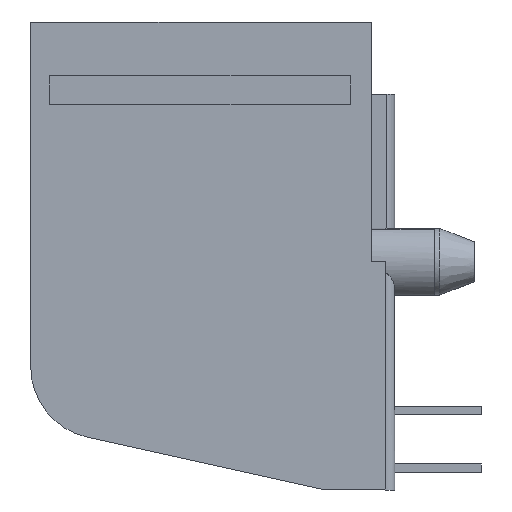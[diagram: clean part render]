
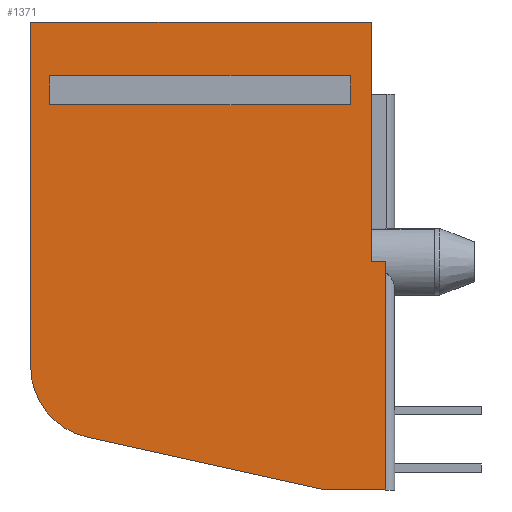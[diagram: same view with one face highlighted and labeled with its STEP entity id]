
A CAD part, left-side view. The second image highlights one B-rep face of the part: STEP entity #1371.
In plain terms, the highlighted planar face has unit normal (-1, 0, 0).
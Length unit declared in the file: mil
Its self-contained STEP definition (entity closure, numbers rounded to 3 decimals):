
#954 = VERTEX_POINT ( 'NONE', #3819 ) ;
#994 = EDGE_CURVE ( 'NONE', #1071, #1018, #3854, .T. ) ;
#1002 = EDGE_CURVE ( 'NONE', #1019, #1003, #3842, .T. ) ;
#1003 = VERTEX_POINT ( 'NONE', #3833 ) ;
#1010 = EDGE_CURVE ( 'NONE', #1011, #954, #3887, .T. ) ;
#1011 = VERTEX_POINT ( 'NONE', #3883 ) ;
#1017 = EDGE_CURVE ( 'NONE', #1018, #1019, #3875, .T. ) ;
#1018 = VERTEX_POINT ( 'NONE', #3868 ) ;
#1019 = VERTEX_POINT ( 'NONE', #3867 ) ;
#1071 = VERTEX_POINT ( 'NONE', #3939 ) ;
#1073 = EDGE_CURVE ( 'NONE', #1003, #1071, #3938, .T. ) ;
#1132 = EDGE_CURVE ( 'NONE', #954, #1155, #4034, .T. ) ;
#1155 = VERTEX_POINT ( 'NONE', #4108 ) ;
#1162 = EDGE_CURVE ( 'NONE', #1417, #1442, #4103, .T. ) ;
#1371 = ADVANCED_FACE ( 'NONE', ( #4404, #4403 ), #4402, .T. ) ;
#1372 = EDGE_LOOP ( 'NONE', ( #1373, #1432, #1433, #1434 ) ) ;
#1373 = ORIENTED_EDGE ( 'NONE', *, *, #1073, .T. ) ;
#1417 = VERTEX_POINT ( 'NONE', #4461 ) ;
#1418 = ORIENTED_EDGE ( 'NONE', *, *, #1419, .F. ) ;
#1419 = EDGE_CURVE ( 'NONE', #1420, #1417, #4519, .T. ) ;
#1420 = VERTEX_POINT ( 'NONE', #4514 ) ;
#1421 = ORIENTED_EDGE ( 'NONE', *, *, #1422, .F. ) ;
#1422 = EDGE_CURVE ( 'NONE', #1423, #1420, #4513, .T. ) ;
#1423 = VERTEX_POINT ( 'NONE', #4509 ) ;
#1424 = ORIENTED_EDGE ( 'NONE', *, *, #1425, .F. ) ;
#1425 = EDGE_CURVE ( 'NONE', #1011, #1423, #4508, .T. ) ;
#1426 = ORIENTED_EDGE ( 'NONE', *, *, #1010, .T. ) ;
#1432 = ORIENTED_EDGE ( 'NONE', *, *, #994, .T. ) ;
#1433 = ORIENTED_EDGE ( 'NONE', *, *, #1017, .T. ) ;
#1434 = ORIENTED_EDGE ( 'NONE', *, *, #1002, .T. ) ;
#1435 = EDGE_LOOP ( 'NONE', ( #1436, #1437, #1440, #1443, #1418, #1421, #1424, #1426 ) ) ;
#1436 = ORIENTED_EDGE ( 'NONE', *, *, #1132, .T. ) ;
#1437 = ORIENTED_EDGE ( 'NONE', *, *, #1438, .F. ) ;
#1438 = EDGE_CURVE ( 'NONE', #1439, #1155, #4493, .T. ) ;
#1439 = VERTEX_POINT ( 'NONE', #4489 ) ;
#1440 = ORIENTED_EDGE ( 'NONE', *, *, #1441, .F. ) ;
#1441 = EDGE_CURVE ( 'NONE', #1442, #1439, #4550, .T. ) ;
#1442 = VERTEX_POINT ( 'NONE', #4546 ) ;
#1443 = ORIENTED_EDGE ( 'NONE', *, *, #1162, .F. ) ;
#3819 = CARTESIAN_POINT ( 'NONE',  ( -265., 14.961, -415. ) ) ;
#3833 = CARTESIAN_POINT ( 'NONE',  ( -265., 596.961, -143. ) ) ;
#3834 = DIRECTION ( 'NONE',  ( 0., 1., 0. ) ) ;
#3835 = VECTOR ( 'NONE', #3834, 39370.079 ) ;
#3836 = CARTESIAN_POINT ( 'NONE',  ( -265., 334.961, -143. ) ) ;
#3842 = LINE ( 'NONE', #3836, #3835 ) ;
#3848 = DIRECTION ( 'NONE',  ( 0., -1., 0. ) ) ;
#3849 = VECTOR ( 'NONE', #3848, 39370.079 ) ;
#3850 = CARTESIAN_POINT ( 'NONE',  ( -265., 334.961, -93. ) ) ;
#3854 = LINE ( 'NONE', #3850, #3849 ) ;
#3867 = CARTESIAN_POINT ( 'NONE',  ( -265., 76.961, -143. ) ) ;
#3868 = CARTESIAN_POINT ( 'NONE',  ( -265., 76.961, -93. ) ) ;
#3869 = DIRECTION ( 'NONE',  ( 0., 0., -1. ) ) ;
#3870 = VECTOR ( 'NONE', #3869, 39370.079 ) ;
#3871 = CARTESIAN_POINT ( 'NONE',  ( -265., 76.961, 0. ) ) ;
#3875 = LINE ( 'NONE', #3871, #3870 ) ;
#3883 = CARTESIAN_POINT ( 'NONE',  ( -265., 14.961, -810. ) ) ;
#3884 = DIRECTION ( 'NONE',  ( 0., 0., 1. ) ) ;
#3885 = VECTOR ( 'NONE', #3884, 39370.079 ) ;
#3886 = CARTESIAN_POINT ( 'NONE',  ( -265., 14.961, 0. ) ) ;
#3887 = LINE ( 'NONE', #3886, #3885 ) ;
#3935 = DIRECTION ( 'NONE',  ( 0., 0., 1. ) ) ;
#3936 = VECTOR ( 'NONE', #3935, 39370.079 ) ;
#3937 = CARTESIAN_POINT ( 'NONE',  ( -265., 596.961, 0. ) ) ;
#3938 = LINE ( 'NONE', #3937, #3936 ) ;
#3939 = CARTESIAN_POINT ( 'NONE',  ( -265., 596.961, -93. ) ) ;
#4031 = DIRECTION ( 'NONE',  ( 0., 1., 0. ) ) ;
#4032 = VECTOR ( 'NONE', #4031, 39370.079 ) ;
#4033 = CARTESIAN_POINT ( 'NONE',  ( -265., 334.961, -415. ) ) ;
#4034 = LINE ( 'NONE', #4033, #4032 ) ;
#4100 = DIRECTION ( 'NONE',  ( 0., 0., 1. ) ) ;
#4101 = VECTOR ( 'NONE', #4100, 39370.079 ) ;
#4102 = CARTESIAN_POINT ( 'NONE',  ( -265., 629.961, 0. ) ) ;
#4103 = LINE ( 'NONE', #4102, #4101 ) ;
#4108 = CARTESIAN_POINT ( 'NONE',  ( -265., 39.961, -415. ) ) ;
#4400 = CARTESIAN_POINT ( 'NONE',  ( -265., 334.961, 0. ) ) ;
#4401 = AXIS2_PLACEMENT_3D ( 'NONE', #4400, #4457, #4456 ) ;
#4402 = PLANE ( 'NONE',  #4401 ) ;
#4403 = FACE_OUTER_BOUND ( 'NONE', #1435, .T. ) ;
#4404 = FACE_BOUND ( 'NONE', #1372, .T. ) ;
#4456 = DIRECTION ( 'NONE',  ( 0., 0., 1. ) ) ;
#4457 = DIRECTION ( 'NONE',  ( -1., 0., 0. ) ) ;
#4461 = CARTESIAN_POINT ( 'NONE',  ( -265., 629.961, -596.613 ) ) ;
#4489 = CARTESIAN_POINT ( 'NONE',  ( -265., 39.961, 0. ) ) ;
#4490 = DIRECTION ( 'NONE',  ( 0., 0., -1. ) ) ;
#4491 = VECTOR ( 'NONE', #4490, 39370.079 ) ;
#4492 = CARTESIAN_POINT ( 'NONE',  ( -265., 39.961, -810. ) ) ;
#4493 = LINE ( 'NONE', #4492, #4491 ) ;
#4505 = DIRECTION ( 'NONE',  ( 0., 1., 0. ) ) ;
#4506 = VECTOR ( 'NONE', #4505, 39370.079 ) ;
#4507 = CARTESIAN_POINT ( 'NONE',  ( -265., 119.961, -810. ) ) ;
#4508 = LINE ( 'NONE', #4507, #4506 ) ;
#4509 = CARTESIAN_POINT ( 'NONE',  ( -265., 119.961, -810. ) ) ;
#4510 = DIRECTION ( 'NONE',  ( 0., 0.976, 0.216 ) ) ;
#4511 = VECTOR ( 'NONE', #4510, 39370.079 ) ;
#4512 = CARTESIAN_POINT ( 'NONE',  ( -265., 532.016, -718.65 ) ) ;
#4513 = LINE ( 'NONE', #4512, #4511 ) ;
#4514 = CARTESIAN_POINT ( 'NONE',  ( -265., 532.016, -718.65 ) ) ;
#4515 = DIRECTION ( 'NONE',  ( 0., 0., 1. ) ) ;
#4516 = DIRECTION ( 'NONE',  ( 1., 0., 0. ) ) ;
#4517 = CARTESIAN_POINT ( 'NONE',  ( -265., 504.961, -596.613 ) ) ;
#4518 = AXIS2_PLACEMENT_3D ( 'NONE', #4517, #4516, #4515 ) ;
#4519 = CIRCLE ( 'NONE', #4518, 125. ) ;
#4546 = CARTESIAN_POINT ( 'NONE',  ( -265., 629.961, 0. ) ) ;
#4547 = DIRECTION ( 'NONE',  ( 0., -1., 0. ) ) ;
#4548 = VECTOR ( 'NONE', #4547, 39370.079 ) ;
#4549 = CARTESIAN_POINT ( 'NONE',  ( -265., 39.961, 0. ) ) ;
#4550 = LINE ( 'NONE', #4549, #4548 ) ;
